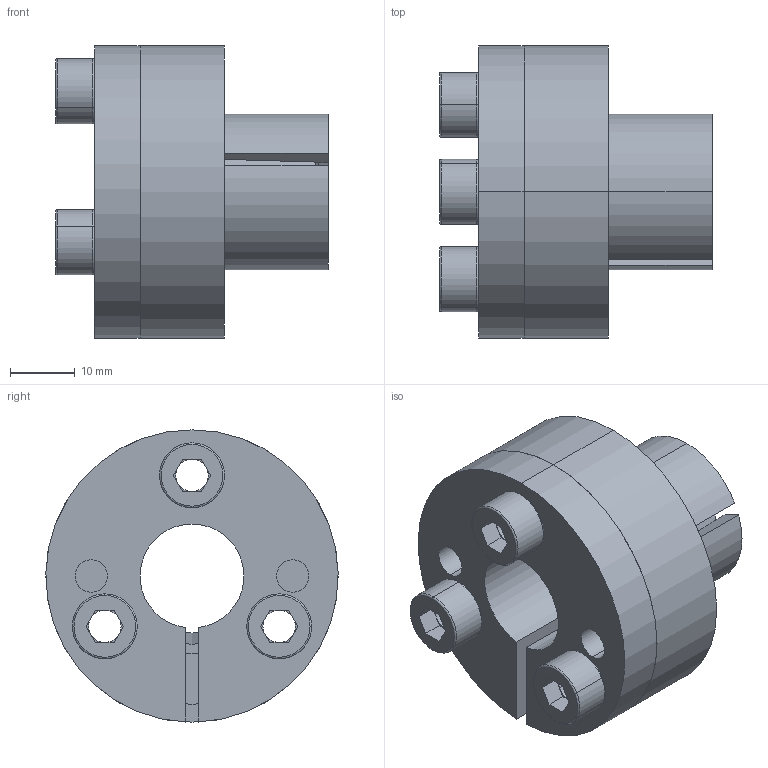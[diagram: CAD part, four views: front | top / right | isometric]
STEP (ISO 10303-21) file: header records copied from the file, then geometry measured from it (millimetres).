
FILE_DESCRIPTION (( 'STEP AP203' ), '1' );
FILE_NAME ('T-16-24.STEP', '2017-10-13T08:13:10', ( 'MYCOM' ), ( '' ), 'SwSTEP 2.0', 'SolidWorks 2015', '' );
FILE_SCHEMA (( 'CONFIG_CONTROL_DESIGN' ));
Length unit declared in the file: millimetre
Products named in the file (1): T-16-24
Bounding box: 42 x 45 x 45 mm (x, y, z)
Surface area: 17633.5 mm2 (no closed solid volume)
Topology: 0 solids, 6 shells, 106 faces, 271 edges, 172 vertices
Faces by surface type: plane 50, cylinder 39, torus 12, cone 5
Entity records: 3316 total; most frequent: DIRECTION 615, CARTESIAN_POINT 568, ORIENTED_EDGE 499, EDGE_CURVE 271, AXIS2_PLACEMENT_3D 241, VERTEX_POINT 172, CIRCLE 134, LINE 133
